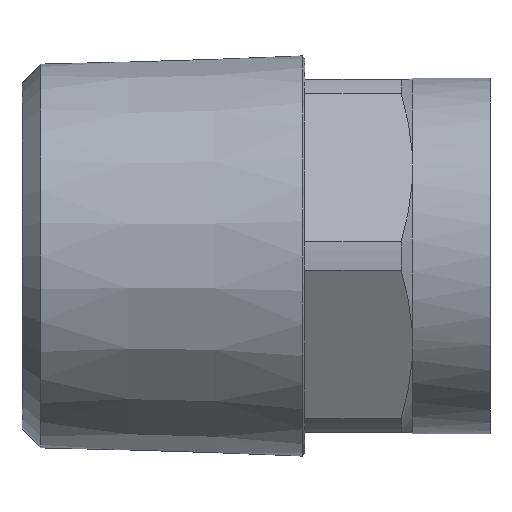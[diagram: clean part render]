
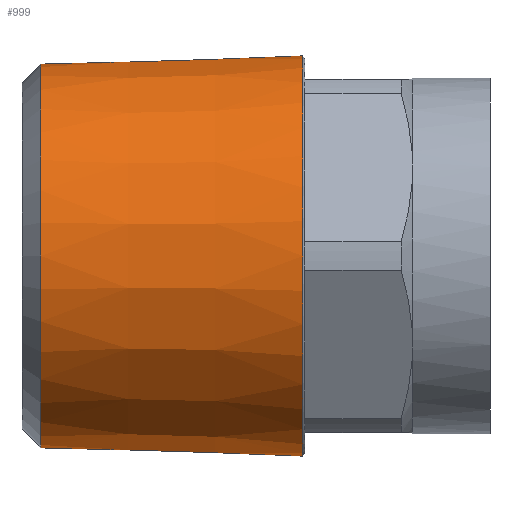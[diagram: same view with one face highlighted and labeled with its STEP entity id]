
A CAD part, front view. The second image highlights one B-rep face of the part: STEP entity #999.
In plain terms, the highlighted conical face has half-angle 1.79 degrees and reference radius 10.454 mm.
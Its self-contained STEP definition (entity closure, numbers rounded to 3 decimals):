
#948=CARTESIAN_POINT('',(1.,10.251,0.));
#949=VERTEX_POINT('',#948);
#950=CARTESIAN_POINT('',(1.,0.0,0.));
#951=DIRECTION('',(-1.0,0.0,0.0));
#952=DIRECTION('',(0.0,-1.0,0.0));
#953=AXIS2_PLACEMENT_3D('',#950,#951,#952);
#954=CIRCLE('',#953,10.251);
#955=EDGE_CURVE('',#949,#949,#954,.T.);
#980=CARTESIAN_POINT('',(7.5,0.0,0.0));
#981=DIRECTION('',(1.0,0.0,0.0));
#982=DIRECTION('',(0.0,1.0,0.0));
#983=AXIS2_PLACEMENT_3D('',#980,#981,#982);
#984=CONICAL_SURFACE('',#983,10.454,1.79);
#985=CARTESIAN_POINT('',(15.,10.689,0.0));
#986=VERTEX_POINT('',#985);
#987=CARTESIAN_POINT('',(15.,0.0,0.0));
#988=DIRECTION('',(1.0,0.0,0.0));
#989=DIRECTION('',(0.0,1.0,0.0));
#990=AXIS2_PLACEMENT_3D('',#987,#988,#989);
#991=CIRCLE('',#990,10.689);
#992=EDGE_CURVE('',#986,#986,#991,.T.);
#993=ORIENTED_EDGE('',*,*,#992,.F.);
#994=EDGE_LOOP('',(#993));
#995=FACE_OUTER_BOUND('',#994,.T.);
#996=ORIENTED_EDGE('',*,*,#955,.F.);
#997=EDGE_LOOP('',(#996));
#998=FACE_BOUND('',#997,.T.);
#999=ADVANCED_FACE('',(#995,#998),#984,.T.);
